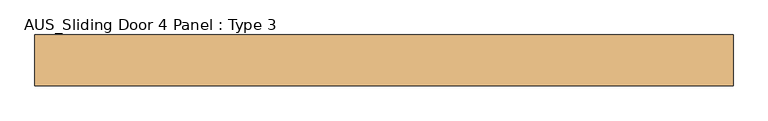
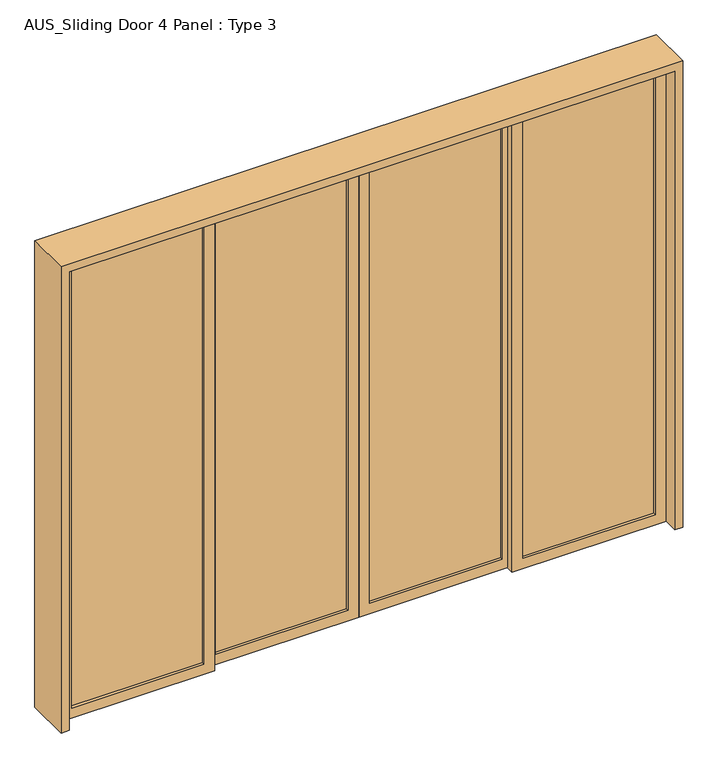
"""IFC4 building model written with IfcOpenShell, lengths in millimetres: door geometry, AUS_Sliding Door 4 Panel : Type 3."""

from ifc_helpers import new_model, si_unit, frame, origin, place, context, project, spatial, polyline, outline, extrude, source, transform, mapped, element, save


def aus_sliding_door_4_panel_type_3_7ec97240(model_context):
    return source(origin(), model_context, "Body", "SweptSolid", [
        extrude(outline(polyline([(0.0, 1609.7580012), (2438.4, 1609.7580012), (2438.4, 834.0080012), (0.0, 834.0080012), (0.0, 1609.7580012)]), holes=[polyline([(55.0, 1554.7580012), (55.0, 889.0080012), (2383.4, 889.0080012), (2383.4, 1554.7580012), (55.0, 1554.7580012)])]), frame((0.0, -40.0, 0.0), z_axis=(0.0, 1.0, 0.0), x_axis=(0.0, 0.0, 1.0)), (0.0, 0.0, 1.0), 40.0),
        extrude(outline(polyline([(1554.7580012, -13.3333333), (1554.7580012, -26.6666667), (889.0080012, -26.6666667), (889.0080012, -13.3333333), (1554.7580012, -13.3333333)])), frame((0.0, 0.0, 55.0), z_axis=(0.0, 0.0, 1.0), x_axis=(1.0, 0.0, 0.0)), (0.0, 0.0, 1.0), 2328.4),
        extrude(outline(polyline([(0.0, 861.5080012), (2438.4, 861.5080012), (2438.4, 85.7580012), (0.0, 85.7580012), (0.0, 861.5080012)]), holes=[polyline([(55.0, 806.5080012), (55.0, 140.7580012), (2383.4, 140.7580012), (2383.4, 806.5080012), (55.0, 806.5080012)])]), frame((0.0, 0.0, 0.0), z_axis=(0.0, 1.0, 0.0), x_axis=(0.0, 0.0, 1.0)), (0.0, 0.0, 1.0), 40.0),
        extrude(outline(polyline([(806.5080012, 26.6666667), (806.5080012, 13.3333333), (140.7580012, 13.3333333), (140.7580012, 26.6666667), (806.5080012, 26.6666667)])), frame((0.0, 0.0, 55.0), z_axis=(0.0, 0.0, 1.0), x_axis=(1.0, 0.0, 0.0)), (0.0, 0.0, 1.0), 2328.4),
        extrude(outline(polyline([(0.0, 85.7580012), (2438.4, 85.7580012), (2438.4, -689.9919988), (0.0, -689.9919988), (0.0, 85.7580012)]), holes=[polyline([(55.0, 30.7580012), (55.0, -634.9919988), (2383.4, -634.9919988), (2383.4, 30.7580012), (55.0, 30.7580012)])]), frame((0.0, 0.0, 0.0), z_axis=(0.0, 1.0, 0.0), x_axis=(0.0, 0.0, 1.0)), (0.0, 0.0, 1.0), 40.0),
        extrude(outline(polyline([(30.7580012, 26.6666667), (30.7580012, 13.3333333), (-634.9919988, 13.3333333), (-634.9919988, 26.6666667), (30.7580012, 26.6666667)])), frame((0.0, 0.0, 55.0), z_axis=(0.0, 0.0, 1.0), x_axis=(1.0, 0.0, 0.0)), (0.0, 0.0, 1.0), 2328.4),
        extrude(outline(polyline([(0.0, -662.4919988), (2438.4, -662.4919988), (2438.4, -1438.2419988), (0.0, -1438.2419988), (0.0, -662.4919988)]), holes=[polyline([(55.0, -717.4919988), (55.0, -1383.2419988), (2383.4, -1383.2419988), (2383.4, -717.4919988), (55.0, -717.4919988)])]), frame((0.0, -40.0, 0.0), z_axis=(0.0, 1.0, 0.0), x_axis=(0.0, 0.0, 1.0)), (0.0, 0.0, 1.0), 40.0),
        extrude(outline(polyline([(-717.4919988, -13.3333333), (-717.4919988, -26.6666667), (-1383.2419988, -26.6666667), (-1383.2419988, -13.3333333), (-717.4919988, -13.3333333)])), frame((0.0, 0.0, 55.0), z_axis=(0.0, 0.0, 1.0), x_axis=(1.0, 0.0, 0.0)), (0.0, 0.0, 1.0), 2328.4),
        extrude(outline(polyline([(0.0, -1478.2419988), (0.0, -1438.2419988), (2438.4, -1438.2419988), (2438.4, 1609.7580012), (0.0, 1609.7580012), (0.0, 1649.7580012), (2478.4, 1649.7580012), (2478.4, -1478.2419988), (0.0, -1478.2419988)])), frame((0.0, -114.3, 0.0), z_axis=(0.0, 1.0, 0.0), x_axis=(0.0, 0.0, 1.0)), (0.0, 0.0, 1.0), 228.6),
    ])


if __name__ == "__main__":
    model = new_model("IFC4")
    model_context = context("Model", 3, world=origin())
    ifc_project = project(units=[si_unit("LENGTHUNIT", "METRE", prefix="MILLI")], contexts=[model_context])
    site = spatial("IfcSite", under=ifc_project)
    building = spatial("IfcBuilding", under=site)
    placement = place(None, origin())
    aus_sliding_door_4_panel_type_3_shape = aus_sliding_door_4_panel_type_3_7ec97240(model_context)
    element("IfcDoor", 1, ObjectType="AUS_Sliding Door 4 Panel : Type 3", at=placement, inside=building, context=model_context, shape_type="MappedRepresentation", body=[
        mapped(aus_sliding_door_4_panel_type_3_shape, transform((0.0, 0.0, 0.0), x_axis=(1.0, 0.0, 0.0), y_axis=(0.0, 1.0, 0.0), z_axis=(0.0, 0.0, 1.0))),
    ])
    save(model, "model.ifc")
